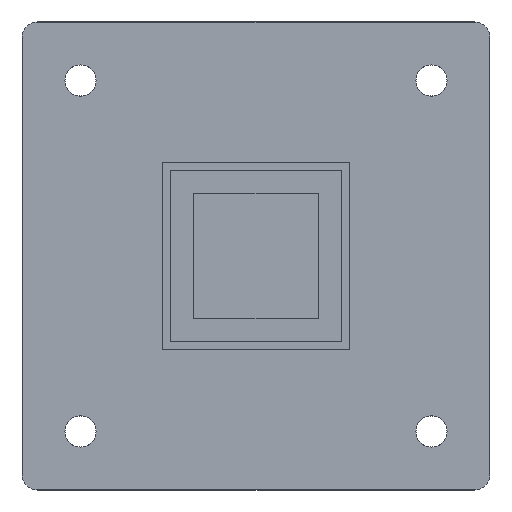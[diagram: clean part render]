
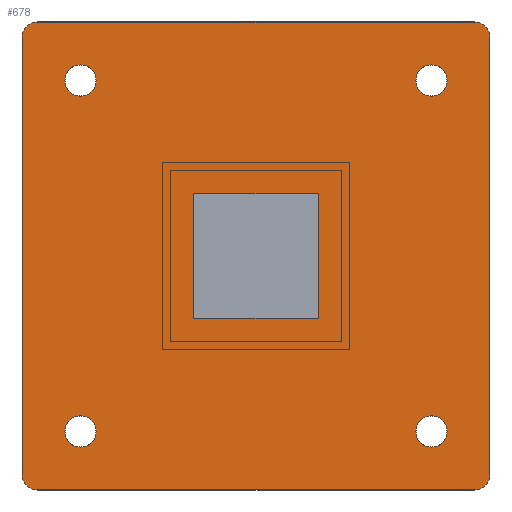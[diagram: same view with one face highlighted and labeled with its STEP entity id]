
A CAD part, top view. The second image highlights one B-rep face of the part: STEP entity #678.
In plain terms, the highlighted planar face has unit normal (0, 0, 1).
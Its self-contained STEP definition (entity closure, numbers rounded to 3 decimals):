
#274 = EDGE_CURVE( '', #288, #434, #741, .T. );
#280 = EDGE_CURVE( '', #314, #288, #747, .T. );
#288 = VERTEX_POINT( '', #756 );
#304 = EDGE_CURVE( '', #326, #314, #774, .T. );
#314 = VERTEX_POINT( '', #784 );
#324 = EDGE_CURVE( '', #350, #326, #794, .T. );
#326 = VERTEX_POINT( '', #796 );
#344 = EDGE_CURVE( '', #374, #350, #816, .T. );
#350 = VERTEX_POINT( '', #822 );
#372 = EDGE_CURVE( '', #392, #374, #849, .T. );
#374 = VERTEX_POINT( '', #851 );
#378 = VERTEX_POINT( '', #855 );
#390 = EDGE_CURVE( '', #424, #392, #868, .T. );
#392 = VERTEX_POINT( '', #870 );
#396 = VERTEX_POINT( '', #874 );
#420 = EDGE_CURVE( '', #434, #424, #901, .T. );
#424 = VERTEX_POINT( '', #905 );
#428 = VERTEX_POINT( '', #910 );
#434 = VERTEX_POINT( '', #922 );
#436 = EDGE_CURVE( '', #476, #580, #924, .T. );
#440 = EDGE_CURVE( '', #648, #396, #928, .T. );
#448 = VERTEX_POINT( '', #936 );
#452 = EDGE_CURVE( '', #580, #476, #940, .T. );
#464 = EDGE_CURVE( '', #448, #428, #955, .T. );
#466 = EDGE_CURVE( '', #680, #378, #957, .T. );
#474 = EDGE_CURVE( '', #510, #592, #966, .T. );
#476 = VERTEX_POINT( '', #968 );
#508 = EDGE_CURVE( '', #536, #510, #1004, .T. );
#510 = VERTEX_POINT( '', #1006 );
#534 = EDGE_CURVE( '', #586, #536, #1031, .T. );
#536 = VERTEX_POINT( '', #1033 );
#570 = EDGE_CURVE( '', #396, #648, #1070, .T. );
#580 = VERTEX_POINT( '', #1082 );
#586 = VERTEX_POINT( '', #1088 );
#588 = EDGE_CURVE( '', #592, #586, #1090, .T. );
#592 = VERTEX_POINT( '', #1095 );
#610 = EDGE_CURVE( '', #378, #680, #1114, .T. );
#648 = VERTEX_POINT( '', #1156 );
#668 = EDGE_CURVE( '', #428, #448, #1178, .T. );
#678 = ADVANCED_FACE( '', ( #1189, #1190, #1191, #1192, #1193, #1194 ), #1195, .T. );
#680 = VERTEX_POINT( '', #1197 );
#741 = CIRCLE( '', #1262, 2. );
#747 = LINE( '', #1271, #1272 );
#756 = CARTESIAN_POINT( '', ( -28., -30., 0. ) );
#774 = CIRCLE( '', #1309, 2. );
#784 = CARTESIAN_POINT( '', ( 28., -30., 0. ) );
#794 = LINE( '', #1337, #1338 );
#796 = CARTESIAN_POINT( '', ( 30., -28., 0. ) );
#816 = CIRCLE( '', #1369, 2. );
#822 = CARTESIAN_POINT( '', ( 30., 28., 0. ) );
#849 = LINE( '', #1415, #1416 );
#851 = CARTESIAN_POINT( '', ( 28., 30., 0. ) );
#855 = CARTESIAN_POINT( '', ( -24.5, 22.5, 0. ) );
#868 = CIRCLE( '', #1440, 2. );
#870 = CARTESIAN_POINT( '', ( -28., 30., 0. ) );
#874 = CARTESIAN_POINT( '', ( 20.5, 22.5, 0. ) );
#901 = LINE( '', #1486, #1487 );
#905 = CARTESIAN_POINT( '', ( -30., 28., 0. ) );
#910 = CARTESIAN_POINT( '', ( -24.5, -22.5, 0. ) );
#922 = CARTESIAN_POINT( '', ( -30., -28., 0. ) );
#924 = CIRCLE( '', #1515, 2. );
#928 = CIRCLE( '', #1520, 2. );
#936 = CARTESIAN_POINT( '', ( -20.5, -22.5, 0. ) );
#940 = CIRCLE( '', #1537, 2. );
#955 = CIRCLE( '', #1553, 2. );
#957 = CIRCLE( '', #1556, 2. );
#966 = LINE( '', #1570, #1571 );
#968 = CARTESIAN_POINT( '', ( 24.5, -22.5, 0. ) );
#1004 = LINE( '', #1621, #1622 );
#1006 = CARTESIAN_POINT( '', ( 8., 8., 0. ) );
#1031 = LINE( '', #1660, #1661 );
#1033 = CARTESIAN_POINT( '', ( -8., 8., 0. ) );
#1070 = CIRCLE( '', #1716, 2. );
#1082 = CARTESIAN_POINT( '', ( 20.5, -22.5, 0. ) );
#1088 = CARTESIAN_POINT( '', ( -8., -8., 0. ) );
#1090 = LINE( '', #1745, #1746 );
#1095 = CARTESIAN_POINT( '', ( 8., -8., 0. ) );
#1114 = CIRCLE( '', #1778, 2. );
#1156 = CARTESIAN_POINT( '', ( 24.5, 22.5, 0. ) );
#1178 = CIRCLE( '', #1867, 2. );
#1189 = FACE_BOUND( '', #1882, .T. );
#1190 = FACE_OUTER_BOUND( '', #1883, .T. );
#1191 = FACE_BOUND( '', #1884, .T. );
#1192 = FACE_BOUND( '', #1885, .T. );
#1193 = FACE_BOUND( '', #1886, .T. );
#1194 = FACE_BOUND( '', #1887, .T. );
#1195 = PLANE( '', #1888 );
#1197 = CARTESIAN_POINT( '', ( -20.5, 22.5, 0. ) );
#1262 = AXIS2_PLACEMENT_3D( '', #1950, #1951, #1952 );
#1271 = CARTESIAN_POINT( '', ( -28., -30., 0. ) );
#1272 = VECTOR( '', #1954, 1. );
#1309 = AXIS2_PLACEMENT_3D( '', #1986, #1987, #1988 );
#1337 = CARTESIAN_POINT( '', ( 30., -28., 0. ) );
#1338 = VECTOR( '', #1995, 1. );
#1369 = AXIS2_PLACEMENT_3D( '', #2016, #2017, #2018 );
#1415 = CARTESIAN_POINT( '', ( 28., 30., 0. ) );
#1416 = VECTOR( '', #2061, 1. );
#1440 = AXIS2_PLACEMENT_3D( '', #2072, #2073, #2074 );
#1486 = CARTESIAN_POINT( '', ( -30., 28., 0. ) );
#1487 = VECTOR( '', #2105, 1. );
#1515 = AXIS2_PLACEMENT_3D( '', #2140, #2141, #2142 );
#1520 = AXIS2_PLACEMENT_3D( '', #2143, #2144, #2145 );
#1537 = AXIS2_PLACEMENT_3D( '', #2148, #2149, #2150 );
#1553 = AXIS2_PLACEMENT_3D( '', #2175, #2176, #2177 );
#1556 = AXIS2_PLACEMENT_3D( '', #2178, #2179, #2180 );
#1570 = CARTESIAN_POINT( '', ( 8., 4., 0. ) );
#1571 = VECTOR( '', #2191, 1. );
#1621 = CARTESIAN_POINT( '', ( -4., 8., 0. ) );
#1622 = VECTOR( '', #2232, 1. );
#1660 = CARTESIAN_POINT( '', ( -8., -4., 0. ) );
#1661 = VECTOR( '', #2246, 1. );
#1716 = AXIS2_PLACEMENT_3D( '', #2281, #2282, #2283 );
#1745 = CARTESIAN_POINT( '', ( 4., -8., 0. ) );
#1746 = VECTOR( '', #2300, 1. );
#1778 = AXIS2_PLACEMENT_3D( '', #2323, #2324, #2325 );
#1867 = AXIS2_PLACEMENT_3D( '', #2401, #2402, #2403 );
#1882 = EDGE_LOOP( '', ( #2415, #2416, #2417, #2418 ) );
#1883 = EDGE_LOOP( '', ( #2419, #2420, #2421, #2422, #2423, #2424, #2425, #2426 ) );
#1884 = EDGE_LOOP( '', ( #2427, #2428 ) );
#1885 = EDGE_LOOP( '', ( #2429, #2430 ) );
#1886 = EDGE_LOOP( '', ( #2431, #2432 ) );
#1887 = EDGE_LOOP( '', ( #2433, #2434 ) );
#1888 = AXIS2_PLACEMENT_3D( '', #2435, #2436, #2437 );
#1950 = CARTESIAN_POINT( '', ( -28., -28., 0. ) );
#1951 = DIRECTION( '', ( 0., 0., -1. ) );
#1952 = DIRECTION( '', ( -1., 0., 0. ) );
#1954 = DIRECTION( '', ( -1., 0., 0. ) );
#1986 = CARTESIAN_POINT( '', ( 28., -28., 0. ) );
#1987 = DIRECTION( '', ( 0., 0., -1. ) );
#1988 = DIRECTION( '', ( 0., -1., 0. ) );
#1995 = DIRECTION( '', ( 0., -1., 0. ) );
#2016 = CARTESIAN_POINT( '', ( 28., 28., 0. ) );
#2017 = DIRECTION( '', ( 0., 0., -1. ) );
#2018 = DIRECTION( '', ( 1., 0., 0. ) );
#2061 = DIRECTION( '', ( 1., 0., 0. ) );
#2072 = CARTESIAN_POINT( '', ( -28., 28., 0. ) );
#2073 = DIRECTION( '', ( 0., 0., -1. ) );
#2074 = DIRECTION( '', ( 0., 1., 0. ) );
#2105 = DIRECTION( '', ( 0., 1., 0. ) );
#2140 = CARTESIAN_POINT( '', ( 22.5, -22.5, 0. ) );
#2141 = DIRECTION( '', ( 0., 0., 1. ) );
#2142 = DIRECTION( '', ( 1., 0., 0. ) );
#2143 = CARTESIAN_POINT( '', ( 22.5, 22.5, 0. ) );
#2144 = DIRECTION( '', ( 0., 0., 1. ) );
#2145 = DIRECTION( '', ( 1., 0., 0. ) );
#2148 = CARTESIAN_POINT( '', ( 22.5, -22.5, 0. ) );
#2149 = DIRECTION( '', ( 0., 0., 1. ) );
#2150 = DIRECTION( '', ( 1., 0., 0. ) );
#2175 = CARTESIAN_POINT( '', ( -22.5, -22.5, 0. ) );
#2176 = DIRECTION( '', ( 0., 0., 1. ) );
#2177 = DIRECTION( '', ( 1., 0., 0. ) );
#2178 = CARTESIAN_POINT( '', ( -22.5, 22.5, 0. ) );
#2179 = DIRECTION( '', ( 0., 0., 1. ) );
#2180 = DIRECTION( '', ( 1., 0., 0. ) );
#2191 = DIRECTION( '', ( 0., -1., 0. ) );
#2232 = DIRECTION( '', ( 1., 0., 0. ) );
#2246 = DIRECTION( '', ( 0., 1., 0. ) );
#2281 = CARTESIAN_POINT( '', ( 22.5, 22.5, 0. ) );
#2282 = DIRECTION( '', ( 0., 0., 1. ) );
#2283 = DIRECTION( '', ( 1., 0., 0. ) );
#2300 = DIRECTION( '', ( -1., 0., 0. ) );
#2323 = CARTESIAN_POINT( '', ( -22.5, 22.5, 0. ) );
#2324 = DIRECTION( '', ( 0., 0., 1. ) );
#2325 = DIRECTION( '', ( 1., 0., 0. ) );
#2401 = CARTESIAN_POINT( '', ( -22.5, -22.5, 0. ) );
#2402 = DIRECTION( '', ( 0., 0., 1. ) );
#2403 = DIRECTION( '', ( 1., 0., 0. ) );
#2415 = ORIENTED_EDGE( '', *, *, #508, .T. );
#2416 = ORIENTED_EDGE( '', *, *, #474, .T. );
#2417 = ORIENTED_EDGE( '', *, *, #588, .T. );
#2418 = ORIENTED_EDGE( '', *, *, #534, .T. );
#2419 = ORIENTED_EDGE( '', *, *, #420, .F. );
#2420 = ORIENTED_EDGE( '', *, *, #274, .F. );
#2421 = ORIENTED_EDGE( '', *, *, #280, .F. );
#2422 = ORIENTED_EDGE( '', *, *, #304, .F. );
#2423 = ORIENTED_EDGE( '', *, *, #324, .F. );
#2424 = ORIENTED_EDGE( '', *, *, #344, .F. );
#2425 = ORIENTED_EDGE( '', *, *, #372, .F. );
#2426 = ORIENTED_EDGE( '', *, *, #390, .F. );
#2427 = ORIENTED_EDGE( '', *, *, #436, .F. );
#2428 = ORIENTED_EDGE( '', *, *, #452, .F. );
#2429 = ORIENTED_EDGE( '', *, *, #440, .F. );
#2430 = ORIENTED_EDGE( '', *, *, #570, .F. );
#2431 = ORIENTED_EDGE( '', *, *, #464, .F. );
#2432 = ORIENTED_EDGE( '', *, *, #668, .F. );
#2433 = ORIENTED_EDGE( '', *, *, #466, .F. );
#2434 = ORIENTED_EDGE( '', *, *, #610, .F. );
#2435 = CARTESIAN_POINT( '', ( 0., 0., 0. ) );
#2436 = DIRECTION( '', ( 0., 0., 1. ) );
#2437 = DIRECTION( '', ( 1., 0., 0. ) );
